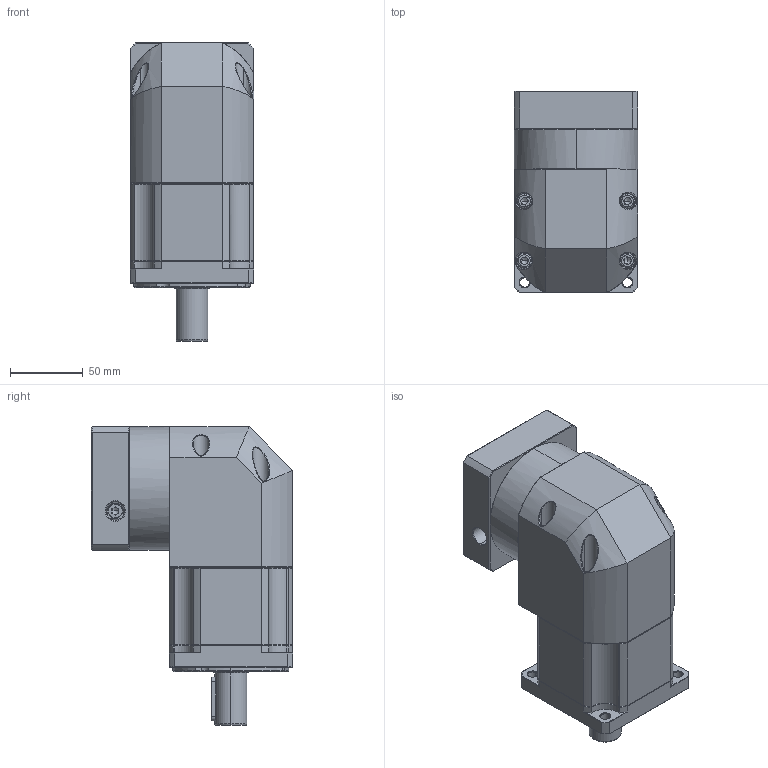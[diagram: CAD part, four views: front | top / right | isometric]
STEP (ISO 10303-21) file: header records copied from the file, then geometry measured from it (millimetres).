
FILE_DESCRIPTION (( 'STEP AP214' ), '1' );
FILE_NAME ('ZBR090-D22-L2-P2-19-80-100-M6.step', '2023-08-19T02:07:06', ( '' ), ( '' ), 'SwSTEP 2.0', 'SolidWorks 2016', '' );
FILE_SCHEMA (( 'AUTOMOTIVE_DESIGN' ));
Length unit declared in the file: millimetre
Products named in the file (1): ZBR090-D22-L2-P2-19-80-100-M6
Bounding box: 85 x 138.6 x 205.5 mm (x, y, z)
Volume: 1312200 mm3; surface area: 136447.9 mm2
Topology: 5 solids, 5 shells, 2407 faces, 6285 edges, 3972 vertices
Faces by surface type: plane 1155, cylinder 449, bspline 421, cone 356, torus 26
Entity records: 129602 total; most frequent: CARTESIAN_POINT 47659, ORIENTED_EDGE 12494, DIRECTION 9948, EDGE_CURVE 6247, VERTEX_POINT 3972, VECTOR 3960, LINE 3960, AXIS2_PLACEMENT_3D 2994
